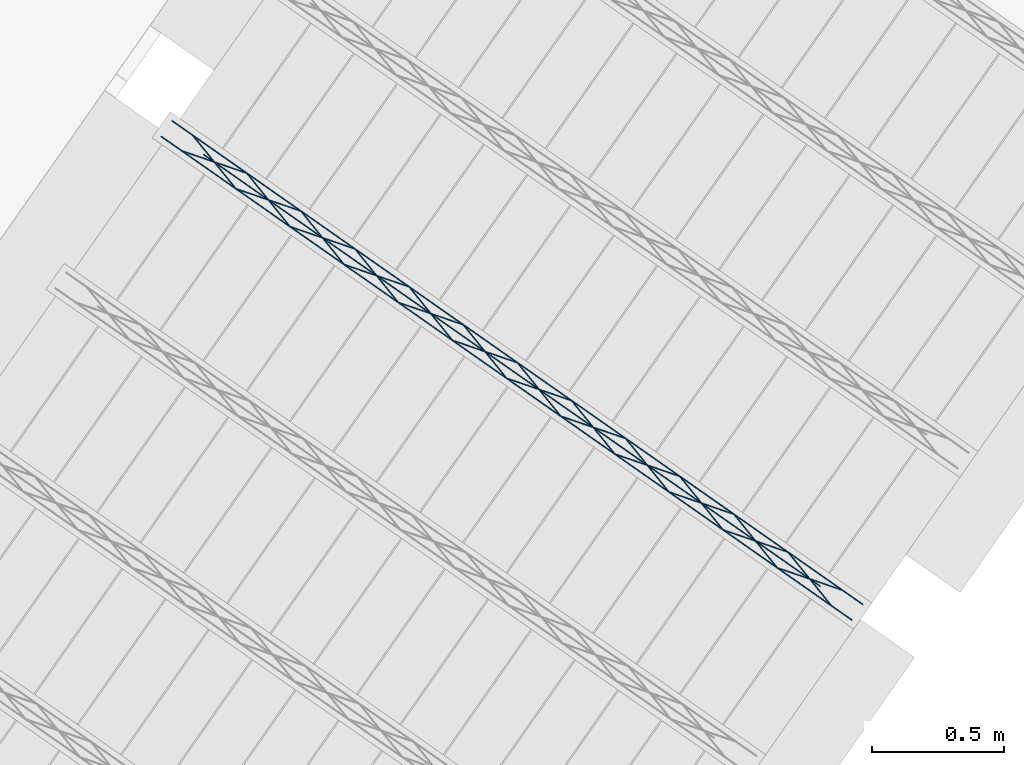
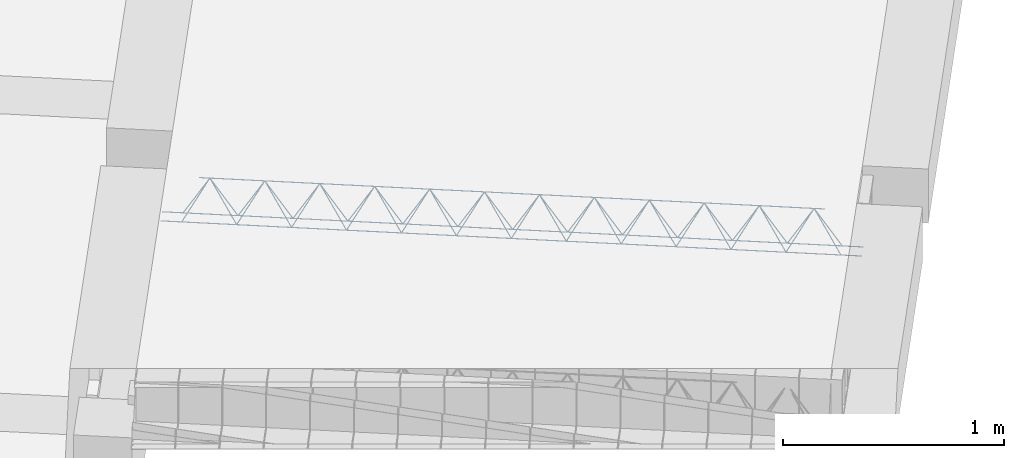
# One storey, part 11 of 46: 1 member.
"""IFC2X3 building model written with IfcOpenShell, lengths in metres."""

from ifc_helpers import new_model, entity, si_unit, converted_unit, derived_unit, direction, frame, origin, origin_2d_with_axis, place, context, subcontext, project, spatial, circle, extrude, type_object, element, save


model = new_model("IFC2X3")

# Units and contexts
model_context = context("Model", 3, precision=1e-05, world=origin(), true_north=direction((6.123031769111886e-17, 1.0)))
body_context = subcontext(model_context, "Body", "Model", "MODEL_VIEW")
ifc_project = project(units=[si_unit("LENGTHUNIT", "METRE"), si_unit("AREAUNIT", "SQUARE_METRE"), si_unit("VOLUMEUNIT", "CUBIC_METRE"), converted_unit("PLANEANGLEUNIT", "DEGREE", entity("IfcPlaneAngleMeasure", 0.017453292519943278), si_unit("PLANEANGLEUNIT", "RADIAN"), dimensions=[0, 0, 0, 0, 0, 0, 0]), si_unit("MASSUNIT", "GRAM", prefix="KILO"), derived_unit("MASSDENSITYUNIT", [(si_unit("MASSUNIT", "GRAM", prefix="KILO"), 1), (si_unit("LENGTHUNIT", "METRE"), -3)]), derived_unit("IONCONCENTRATIONUNIT", [(si_unit("MASSUNIT", "GRAM", prefix="KILO"), 1), (si_unit("LENGTHUNIT", "METRE"), -3)]), derived_unit("MOMENTOFINERTIAUNIT", [(si_unit("LENGTHUNIT", "METRE"), 4)]), si_unit("TIMEUNIT", "SECOND"), si_unit("FREQUENCYUNIT", "HERTZ"), si_unit("THERMODYNAMICTEMPERATUREUNIT", "DEGREE_CELSIUS"), derived_unit("THERMALTRANSMITTANCEUNIT", [(si_unit("MASSUNIT", "GRAM", prefix="KILO"), 1), (si_unit("THERMODYNAMICTEMPERATUREUNIT", "KELVIN"), -1), (si_unit("TIMEUNIT", "SECOND"), -3)]), derived_unit("THERMALCONDUCTANCEUNIT", [(si_unit("MASSUNIT", "GRAM", prefix="KILO"), 1), (si_unit("THERMODYNAMICTEMPERATUREUNIT", "KELVIN"), -1), (si_unit("TIMEUNIT", "SECOND"), -3), (si_unit("LENGTHUNIT", "METRE"), 1)]), derived_unit("VOLUMETRICFLOWRATEUNIT", [(si_unit("LENGTHUNIT", "METRE", prefix="DECI"), 3), (si_unit("TIMEUNIT", "SECOND"), -1)]), derived_unit("MASSFLOWRATEUNIT", [(si_unit("MASSUNIT", "GRAM", prefix="KILO"), 1), (si_unit("TIMEUNIT", "SECOND"), -1)]), derived_unit("ROTATIONALFREQUENCYUNIT", [(si_unit("TIMEUNIT", "SECOND"), -1)]), si_unit("ELECTRICCURRENTUNIT", "AMPERE"), si_unit("ELECTRICVOLTAGEUNIT", "VOLT"), si_unit("POWERUNIT", "WATT"), si_unit("FORCEUNIT", "NEWTON", prefix="KILO"), si_unit("ILLUMINANCEUNIT", "LUX"), si_unit("LUMINOUSFLUXUNIT", "LUMEN"), si_unit("LUMINOUSINTENSITYUNIT", "CANDELA"), si_unit("ENERGYUNIT", "JOULE"), derived_unit("USERDEFINED", [(si_unit("MASSUNIT", "GRAM", prefix="KILO"), -1), (si_unit("LENGTHUNIT", "METRE"), -2), (si_unit("TIMEUNIT", "SECOND"), 3), (si_unit("LUMINOUSFLUXUNIT", "LUMEN"), 1)]), derived_unit("USERDEFINED", [(si_unit("MASSUNIT", "GRAM", prefix="KILO"), 1), (si_unit("TIMEUNIT", "SECOND"), -3), (si_unit("LENGTHUNIT", "METRE"), 3), (si_unit("ELECTRICCURRENTUNIT", "AMPERE"), -2)]), derived_unit("SOUNDPOWERUNIT", [(si_unit("MASSUNIT", "GRAM", prefix="KILO"), 1), (si_unit("TIMEUNIT", "SECOND"), -3), (si_unit("LENGTHUNIT", "METRE"), 2)]), derived_unit("SOUNDPRESSUREUNIT", [(si_unit("MASSUNIT", "GRAM", prefix="KILO"), 1), (si_unit("LENGTHUNIT", "METRE"), -1), (si_unit("TIMEUNIT", "SECOND"), -2)]), derived_unit("LINEARVELOCITYUNIT", [(si_unit("LENGTHUNIT", "METRE"), 1), (si_unit("TIMEUNIT", "SECOND"), -1)]), si_unit("PRESSUREUNIT", "PASCAL"), derived_unit("USERDEFINED", [(si_unit("MASSUNIT", "GRAM", prefix="KILO"), 1), (si_unit("LENGTHUNIT", "METRE"), -2), (si_unit("TIMEUNIT", "SECOND"), -2)]), derived_unit("LINEARFORCEUNIT", [(si_unit("MASSUNIT", "GRAM", prefix="KILO"), 1), (si_unit("TIMEUNIT", "SECOND"), -2)]), derived_unit("PLANARFORCEUNIT", [(si_unit("MASSUNIT", "GRAM", prefix="KILO"), 1), (si_unit("LENGTHUNIT", "METRE"), -1), (si_unit("TIMEUNIT", "SECOND"), -2)]), derived_unit("SPECIFICHEATCAPACITYUNIT", [(si_unit("THERMODYNAMICTEMPERATUREUNIT", "KELVIN"), -1), (si_unit("LENGTHUNIT", "METRE"), 2), (si_unit("TIMEUNIT", "SECOND"), -2)]), derived_unit("HEATFLUXDENSITYUNIT", [(si_unit("MASSUNIT", "GRAM", prefix="KILO"), 1), (si_unit("TIMEUNIT", "SECOND"), -3)]), derived_unit("HEATINGVALUEUNIT", [(si_unit("LENGTHUNIT", "METRE"), 2), (si_unit("TIMEUNIT", "SECOND"), -2)]), derived_unit("VAPORPERMEABILITYUNIT", [(si_unit("LENGTHUNIT", "METRE"), -1), (si_unit("TIMEUNIT", "SECOND"), 1)]), derived_unit("DYNAMICVISCOSITYUNIT", [(si_unit("MASSUNIT", "GRAM", prefix="KILO"), 1), (si_unit("TIMEUNIT", "SECOND"), -1), (si_unit("LENGTHUNIT", "METRE"), -1)]), derived_unit("THERMALEXPANSIONCOEFFICIENTUNIT", [(si_unit("THERMODYNAMICTEMPERATUREUNIT", "KELVIN"), -1)]), derived_unit("MODULUSOFELASTICITYUNIT", [(si_unit("MASSUNIT", "GRAM", prefix="KILO"), 1), (si_unit("LENGTHUNIT", "METRE"), -1), (si_unit("TIMEUNIT", "SECOND"), -2)]), derived_unit("ISOTHERMALMOISTURECAPACITYUNIT", [(si_unit("MASSUNIT", "GRAM", prefix="KILO"), -1), (si_unit("LENGTHUNIT", "METRE"), 3)]), derived_unit("MOISTUREDIFFUSIVITYUNIT", [(si_unit("TIMEUNIT", "SECOND"), -1), (si_unit("LENGTHUNIT", "METRE"), 2)]), derived_unit("MASSPERLENGTHUNIT", [(si_unit("MASSUNIT", "GRAM", prefix="KILO"), 1), (si_unit("LENGTHUNIT", "METRE"), -1)]), derived_unit("THERMALRESISTANCEUNIT", [(si_unit("MASSUNIT", "GRAM", prefix="KILO"), -1), (si_unit("TIMEUNIT", "SECOND"), 3), (si_unit("THERMODYNAMICTEMPERATUREUNIT", "KELVIN"), 1)]), derived_unit("ACCELERATIONUNIT", [(si_unit("LENGTHUNIT", "METRE"), 1), (si_unit("TIMEUNIT", "SECOND"), -2)]), derived_unit("ANGULARVELOCITYUNIT", [(si_unit("TIMEUNIT", "SECOND"), -1), (si_unit("PLANEANGLEUNIT", "RADIAN"), 1)]), derived_unit("LINEARSTIFFNESSUNIT", [(si_unit("MASSUNIT", "GRAM", prefix="KILO"), 1), (si_unit("TIMEUNIT", "SECOND"), -2)]), derived_unit("WARPINGCONSTANTUNIT", [(si_unit("LENGTHUNIT", "METRE"), 6)]), derived_unit("LINEARMOMENTUNIT", [(si_unit("MASSUNIT", "GRAM", prefix="KILO"), 1), (si_unit("LENGTHUNIT", "METRE"), 1), (si_unit("TIMEUNIT", "SECOND"), -2)]), derived_unit("TORQUEUNIT", [(si_unit("MASSUNIT", "GRAM", prefix="KILO"), 1), (si_unit("LENGTHUNIT", "METRE"), 2), (si_unit("TIMEUNIT", "SECOND"), -2)])], contexts=[model_context])

# Site, building, storey
site_placement = place(None, origin())
site = spatial("IfcSite", under=ifc_project, at=site_placement, Name="Default", CompositionType="ELEMENT")
building_placement = place(site_placement, origin())
building = spatial("IfcBuilding", under=site, at=building_placement, CompositionType="ELEMENT")
storey_placement = place(building_placement, frame((0.0, 0.0, 99.52000000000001)))
storey = spatial("IfcBuildingStorey", under=building, at=storey_placement, Name="F1", CompositionType="ELEMENT", Elevation=99.52000000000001)

# Member
member_type = type_object("IfcMemberType", Name="Celosía (Vigueta 6 - Paño 4)", PredefinedType="NOTDEFINED")
member_placement = place(storey_placement, origin())
element("IfcMember", 1, at=member_placement, inside=storey, type_object=member_type, Name="Celosía (Vigueta 6 - Paño 4)", context=body_context, shape_type="SweptSolid", body=[
    extrude(circle(Radius=0.0025, at=origin_2d_with_axis()), frame((6.461947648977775, -0.9670227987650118, 0.22500000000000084), z_axis=(0.8191520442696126, -0.5735764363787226, 0.0), x_axis=(-0.5735764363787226, -0.8191520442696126, 0.0)), (0.0, 0.0, 1.0), 3.191999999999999),
    extrude(circle(Radius=0.0025, at=origin_2d_with_axis()), frame((6.622671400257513, -1.0356148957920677, 0.4500000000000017), z_axis=(0.8191520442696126, -0.5735764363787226, 0.0), x_axis=(-0.5735764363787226, -0.8191520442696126, 0.0)), (0.0, 0.0, 1.0), 2.849999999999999),
    extrude(circle(Radius=0.0025, at=origin_2d_with_axis()), frame((8.998042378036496, -2.742815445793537, 0.22500000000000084), z_axis=(-0.3145304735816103, 0.389334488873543, 0.8657304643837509), x_axis=(-0.7778747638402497, -0.6284193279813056, 0.0)), (0.0, 0.0, 1.0), 0.2598961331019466),
    extrude(circle(Radius=0.0025, at=origin_2d_with_axis()), frame((8.793254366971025, -2.599421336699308, 0.22499999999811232), z_axis=(0.47343050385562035, -0.1624017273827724, 0.8657304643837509), x_axis=(-0.3244721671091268, -0.9458952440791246, 0.0)), (0.0, 0.0, 1.0), 0.25989613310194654),
    extrude(circle(Radius=0.0025, at=origin_2d_with_axis()), frame((8.793254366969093, -2.5994213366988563, 0.22500000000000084), z_axis=(-0.3145304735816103, 0.389334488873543, 0.8657304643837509), x_axis=(-0.7778747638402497, -0.6284193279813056, 0.0)), (0.0, 0.0, 1.0), 0.2598961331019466),
    extrude(circle(Radius=0.0025, at=origin_2d_with_axis()), frame((8.588466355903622, -2.4560272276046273, 0.22499999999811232), z_axis=(0.47343050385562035, -0.1624017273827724, 0.8657304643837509), x_axis=(-0.3244721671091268, -0.9458952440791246, 0.0)), (0.0, 0.0, 1.0), 0.25989613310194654),
    extrude(circle(Radius=0.0025, at=origin_2d_with_axis()), frame((8.588466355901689, -2.4560272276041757, 0.22500000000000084), z_axis=(-0.3145304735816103, 0.389334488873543, 0.8657304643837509), x_axis=(-0.7778747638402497, -0.6284193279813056, 0.0)), (0.0, 0.0, 1.0), 0.2598961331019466),
    extrude(circle(Radius=0.0025, at=origin_2d_with_axis()), frame((8.383678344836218, -2.312633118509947, 0.22499999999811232), z_axis=(0.47343050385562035, -0.1624017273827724, 0.8657304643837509), x_axis=(-0.3244721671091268, -0.9458952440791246, 0.0)), (0.0, 0.0, 1.0), 0.25989613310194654),
    extrude(circle(Radius=0.0025, at=origin_2d_with_axis()), frame((8.383678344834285, -2.312633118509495, 0.22500000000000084), z_axis=(-0.3145304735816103, 0.389334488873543, 0.8657304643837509), x_axis=(-0.7778747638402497, -0.6284193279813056, 0.0)), (0.0, 0.0, 1.0), 0.2598961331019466),
    extrude(circle(Radius=0.0025, at=origin_2d_with_axis()), frame((8.178890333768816, -2.1692390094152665, 0.22499999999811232), z_axis=(0.47343050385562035, -0.1624017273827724, 0.8657304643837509), x_axis=(-0.3244721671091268, -0.9458952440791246, 0.0)), (0.0, 0.0, 1.0), 0.25989613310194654),
    extrude(circle(Radius=0.0025, at=origin_2d_with_axis()), frame((8.178890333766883, -2.1692390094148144, 0.22500000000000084), z_axis=(-0.3145304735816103, 0.389334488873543, 0.8657304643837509), x_axis=(-0.7778747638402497, -0.6284193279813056, 0.0)), (0.0, 0.0, 1.0), 0.2598961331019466),
    extrude(circle(Radius=0.0025, at=origin_2d_with_axis()), frame((7.974102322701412, -2.025844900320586, 0.22499999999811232), z_axis=(0.47343050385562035, -0.1624017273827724, 0.8657304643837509), x_axis=(-0.3244721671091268, -0.9458952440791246, 0.0)), (0.0, 0.0, 1.0), 0.25989613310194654),
    extrude(circle(Radius=0.0025, at=origin_2d_with_axis()), frame((7.97410232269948, -2.0258449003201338, 0.22500000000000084), z_axis=(-0.3145304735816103, 0.389334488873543, 0.8657304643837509), x_axis=(-0.7778747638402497, -0.6284193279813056, 0.0)), (0.0, 0.0, 1.0), 0.2598961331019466),
    extrude(circle(Radius=0.0025, at=origin_2d_with_axis()), frame((7.769314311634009, -1.8824507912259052, 0.22499999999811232), z_axis=(0.47343050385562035, -0.1624017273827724, 0.8657304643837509), x_axis=(-0.3244721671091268, -0.9458952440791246, 0.0)), (0.0, 0.0, 1.0), 0.25989613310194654),
    extrude(circle(Radius=0.0025, at=origin_2d_with_axis()), frame((7.769314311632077, -1.8824507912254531, 0.22500000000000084), z_axis=(-0.3145304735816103, 0.389334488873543, 0.8657304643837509), x_axis=(-0.7778747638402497, -0.6284193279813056, 0.0)), (0.0, 0.0, 1.0), 0.2598961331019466),
    extrude(circle(Radius=0.0025, at=origin_2d_with_axis()), frame((7.564526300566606, -1.7390566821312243, 0.22499999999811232), z_axis=(0.47343050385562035, -0.1624017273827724, 0.8657304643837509), x_axis=(-0.3244721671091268, -0.9458952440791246, 0.0)), (0.0, 0.0, 1.0), 0.25989613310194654),
    extrude(circle(Radius=0.0025, at=origin_2d_with_axis()), frame((7.5645263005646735, -1.7390566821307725, 0.22500000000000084), z_axis=(-0.3145304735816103, 0.389334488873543, 0.8657304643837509), x_axis=(-0.7778747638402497, -0.6284193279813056, 0.0)), (0.0, 0.0, 1.0), 0.2598961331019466),
    extrude(circle(Radius=0.0025, at=origin_2d_with_axis()), frame((7.359738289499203, -1.5956625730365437, 0.22499999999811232), z_axis=(0.47343050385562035, -0.1624017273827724, 0.8657304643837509), x_axis=(-0.3244721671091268, -0.9458952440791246, 0.0)), (0.0, 0.0, 1.0), 0.25989613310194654),
    extrude(circle(Radius=0.0025, at=origin_2d_with_axis()), frame((7.35973828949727, -1.5956625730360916, 0.22500000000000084), z_axis=(-0.3145304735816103, 0.389334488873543, 0.8657304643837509), x_axis=(-0.7778747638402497, -0.6284193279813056, 0.0)), (0.0, 0.0, 1.0), 0.2598961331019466),
    extrude(circle(Radius=0.0025, at=origin_2d_with_axis()), frame((7.1549502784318, -1.4522684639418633, 0.22499999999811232), z_axis=(0.47343050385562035, -0.1624017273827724, 0.8657304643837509), x_axis=(-0.3244721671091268, -0.9458952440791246, 0.0)), (0.0, 0.0, 1.0), 0.25989613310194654),
    extrude(circle(Radius=0.0025, at=origin_2d_with_axis()), frame((7.154950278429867, -1.4522684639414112, 0.22500000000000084), z_axis=(-0.3145304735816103, 0.389334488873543, 0.8657304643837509), x_axis=(-0.7778747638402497, -0.6284193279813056, 0.0)), (0.0, 0.0, 1.0), 0.2598961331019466),
    extrude(circle(Radius=0.0025, at=origin_2d_with_axis()), frame((6.950162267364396, -1.3088743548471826, 0.22499999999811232), z_axis=(0.47343050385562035, -0.1624017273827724, 0.8657304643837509), x_axis=(-0.3244721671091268, -0.9458952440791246, 0.0)), (0.0, 0.0, 1.0), 0.25989613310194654),
    extrude(circle(Radius=0.0025, at=origin_2d_with_axis()), frame((6.9501622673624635, -1.3088743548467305, 0.22500000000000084), z_axis=(-0.3145304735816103, 0.389334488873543, 0.8657304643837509), x_axis=(-0.7778747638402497, -0.6284193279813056, 0.0)), (0.0, 0.0, 1.0), 0.2598961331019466),
    extrude(circle(Radius=0.0025, at=origin_2d_with_axis()), frame((6.745374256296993, -1.165480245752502, 0.22499999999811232), z_axis=(0.47343050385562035, -0.1624017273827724, 0.8657304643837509), x_axis=(-0.3244721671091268, -0.9458952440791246, 0.0)), (0.0, 0.0, 1.0), 0.25989613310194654),
    extrude(circle(Radius=0.0025, at=origin_2d_with_axis()), frame((6.745374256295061, -1.16548024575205, 0.22500000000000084), z_axis=(-0.3145304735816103, 0.389334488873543, 0.8657304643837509), x_axis=(-0.7778747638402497, -0.6284193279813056, 0.0)), (0.0, 0.0, 1.0), 0.2598961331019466),
    extrude(circle(Radius=0.0025, at=origin_2d_with_axis()), frame((6.540586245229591, -1.0220861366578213, 0.22499999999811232), z_axis=(0.47343050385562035, -0.1624017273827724, 0.8657304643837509), x_axis=(-0.3244721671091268, -0.9458952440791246, 0.0)), (0.0, 0.0, 1.0), 0.25989613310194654),
    extrude(circle(Radius=0.0025, at=origin_2d_with_axis()), frame((6.503245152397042, -0.9080438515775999, 0.22500000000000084), z_axis=(0.8191520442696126, -0.5735764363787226, 0.0), x_axis=(-0.5735764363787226, -0.8191520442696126, 0.0)), (0.0, 0.0, 1.0), 3.191999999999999),
    extrude(circle(Radius=0.0025, at=origin_2d_with_axis()), frame((9.039339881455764, -2.6838364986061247, 0.22500000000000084), z_axis=(-0.47343050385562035, 0.1624017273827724, 0.8657304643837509), x_axis=(-0.3244721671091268, -0.9458952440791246, 0.0)), (0.0, 0.0, 1.0), 0.25989613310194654),
    extrude(circle(Radius=0.0025, at=origin_2d_with_axis()), frame((8.834551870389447, -2.5404423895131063, 0.22499999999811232), z_axis=(0.3145304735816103, -0.389334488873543, 0.8657304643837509), x_axis=(-0.7778747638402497, -0.6284193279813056, 0.0)), (0.0, 0.0, 1.0), 0.2598961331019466),
    extrude(circle(Radius=0.0025, at=origin_2d_with_axis()), frame((8.83455187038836, -2.5404423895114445, 0.22500000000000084), z_axis=(-0.47343050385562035, 0.1624017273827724, 0.8657304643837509), x_axis=(-0.3244721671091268, -0.9458952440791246, 0.0)), (0.0, 0.0, 1.0), 0.25989613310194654),
    extrude(circle(Radius=0.0025, at=origin_2d_with_axis()), frame((8.629763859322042, -2.397048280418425, 0.22499999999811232), z_axis=(0.3145304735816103, -0.389334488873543, 0.8657304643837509), x_axis=(-0.7778747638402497, -0.6284193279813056, 0.0)), (0.0, 0.0, 1.0), 0.2598961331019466),
    extrude(circle(Radius=0.0025, at=origin_2d_with_axis()), frame((8.629763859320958, -2.397048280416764, 0.22500000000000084), z_axis=(-0.47343050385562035, 0.1624017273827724, 0.8657304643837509), x_axis=(-0.3244721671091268, -0.9458952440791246, 0.0)), (0.0, 0.0, 1.0), 0.25989613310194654),
    extrude(circle(Radius=0.0025, at=origin_2d_with_axis()), frame((8.42497584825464, -2.253654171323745, 0.22499999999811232), z_axis=(0.3145304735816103, -0.389334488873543, 0.8657304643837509), x_axis=(-0.7778747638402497, -0.6284193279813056, 0.0)), (0.0, 0.0, 1.0), 0.2598961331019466),
    extrude(circle(Radius=0.0025, at=origin_2d_with_axis()), frame((8.424975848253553, -2.2536541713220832, 0.22500000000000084), z_axis=(-0.47343050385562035, 0.1624017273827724, 0.8657304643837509), x_axis=(-0.3244721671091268, -0.9458952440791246, 0.0)), (0.0, 0.0, 1.0), 0.25989613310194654),
    extrude(circle(Radius=0.0025, at=origin_2d_with_axis()), frame((8.220187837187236, -2.1102600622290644, 0.22499999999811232), z_axis=(0.3145304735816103, -0.389334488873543, 0.8657304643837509), x_axis=(-0.7778747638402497, -0.6284193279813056, 0.0)), (0.0, 0.0, 1.0), 0.2598961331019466),
    extrude(circle(Radius=0.0025, at=origin_2d_with_axis()), frame((8.22018783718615, -2.110260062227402, 0.22500000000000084), z_axis=(-0.47343050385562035, 0.1624017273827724, 0.8657304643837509), x_axis=(-0.3244721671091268, -0.9458952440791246, 0.0)), (0.0, 0.0, 1.0), 0.25989613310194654),
    extrude(circle(Radius=0.0025, at=origin_2d_with_axis()), frame((8.015399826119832, -1.9668659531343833, 0.22499999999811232), z_axis=(0.3145304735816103, -0.389334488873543, 0.8657304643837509), x_axis=(-0.7778747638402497, -0.6284193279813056, 0.0)), (0.0, 0.0, 1.0), 0.2598961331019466),
    extrude(circle(Radius=0.0025, at=origin_2d_with_axis()), frame((8.015399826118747, -1.9668659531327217, 0.22500000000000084), z_axis=(-0.47343050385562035, 0.1624017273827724, 0.8657304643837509), x_axis=(-0.3244721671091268, -0.9458952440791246, 0.0)), (0.0, 0.0, 1.0), 0.25989613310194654),
    extrude(circle(Radius=0.0025, at=origin_2d_with_axis()), frame((7.81061181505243, -1.823471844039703, 0.22499999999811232), z_axis=(0.3145304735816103, -0.389334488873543, 0.8657304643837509), x_axis=(-0.7778747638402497, -0.6284193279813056, 0.0)), (0.0, 0.0, 1.0), 0.2598961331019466),
    extrude(circle(Radius=0.0025, at=origin_2d_with_axis()), frame((7.810611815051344, -1.823471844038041, 0.22500000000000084), z_axis=(-0.47343050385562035, 0.1624017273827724, 0.8657304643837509), x_axis=(-0.3244721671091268, -0.9458952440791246, 0.0)), (0.0, 0.0, 1.0), 0.25989613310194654),
    extrude(circle(Radius=0.0025, at=origin_2d_with_axis()), frame((7.605823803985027, -1.6800777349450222, 0.22499999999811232), z_axis=(0.3145304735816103, -0.389334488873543, 0.8657304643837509), x_axis=(-0.7778747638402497, -0.6284193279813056, 0.0)), (0.0, 0.0, 1.0), 0.2598961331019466),
    extrude(circle(Radius=0.0025, at=origin_2d_with_axis()), frame((7.605823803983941, -1.6800777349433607, 0.22500000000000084), z_axis=(-0.47343050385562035, 0.1624017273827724, 0.8657304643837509), x_axis=(-0.3244721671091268, -0.9458952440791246, 0.0)), (0.0, 0.0, 1.0), 0.25989613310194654),
    extrude(circle(Radius=0.0025, at=origin_2d_with_axis()), frame((7.401035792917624, -1.5366836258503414, 0.22499999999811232), z_axis=(0.3145304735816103, -0.389334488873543, 0.8657304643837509), x_axis=(-0.7778747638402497, -0.6284193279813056, 0.0)), (0.0, 0.0, 1.0), 0.2598961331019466),
    extrude(circle(Radius=0.0025, at=origin_2d_with_axis()), frame((7.401035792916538, -1.5366836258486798, 0.22500000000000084), z_axis=(-0.47343050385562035, 0.1624017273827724, 0.8657304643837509), x_axis=(-0.3244721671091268, -0.9458952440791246, 0.0)), (0.0, 0.0, 1.0), 0.25989613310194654),
    extrude(circle(Radius=0.0025, at=origin_2d_with_axis()), frame((7.196247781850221, -1.3932895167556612, 0.22499999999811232), z_axis=(0.3145304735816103, -0.389334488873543, 0.8657304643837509), x_axis=(-0.7778747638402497, -0.6284193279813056, 0.0)), (0.0, 0.0, 1.0), 0.2598961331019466),
    extrude(circle(Radius=0.0025, at=origin_2d_with_axis()), frame((7.196247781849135, -1.3932895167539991, 0.22500000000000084), z_axis=(-0.47343050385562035, 0.1624017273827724, 0.8657304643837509), x_axis=(-0.3244721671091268, -0.9458952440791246, 0.0)), (0.0, 0.0, 1.0), 0.25989613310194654),
    extrude(circle(Radius=0.0025, at=origin_2d_with_axis()), frame((6.991459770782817, -1.2498954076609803, 0.22499999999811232), z_axis=(0.3145304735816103, -0.389334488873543, 0.8657304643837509), x_axis=(-0.7778747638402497, -0.6284193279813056, 0.0)), (0.0, 0.0, 1.0), 0.2598961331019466),
    extrude(circle(Radius=0.0025, at=origin_2d_with_axis()), frame((6.991459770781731, -1.2498954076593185, 0.22500000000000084), z_axis=(-0.47343050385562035, 0.1624017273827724, 0.8657304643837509), x_axis=(-0.3244721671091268, -0.9458952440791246, 0.0)), (0.0, 0.0, 1.0), 0.25989613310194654),
    extrude(circle(Radius=0.0025, at=origin_2d_with_axis()), frame((6.786671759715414, -1.1065012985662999, 0.22499999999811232), z_axis=(0.3145304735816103, -0.389334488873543, 0.8657304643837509), x_axis=(-0.7778747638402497, -0.6284193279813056, 0.0)), (0.0, 0.0, 1.0), 0.2598961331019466),
    extrude(circle(Radius=0.0025, at=origin_2d_with_axis()), frame((6.786671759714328, -1.106501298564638, 0.22500000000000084), z_axis=(-0.47343050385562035, 0.1624017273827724, 0.8657304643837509), x_axis=(-0.3244721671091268, -0.9458952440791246, 0.0)), (0.0, 0.0, 1.0), 0.25989613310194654),
    extrude(circle(Radius=0.0025, at=origin_2d_with_axis()), frame((6.5818837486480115, -0.9631071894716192, 0.22499999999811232), z_axis=(0.3145304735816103, -0.389334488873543, 0.8657304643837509), x_axis=(-0.7778747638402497, -0.6284193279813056, 0.0)), (0.0, 0.0, 1.0), 0.2598961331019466),
])

save(model, "model.ifc")
